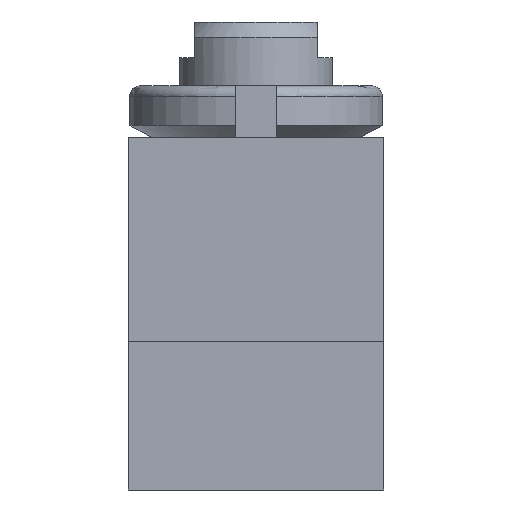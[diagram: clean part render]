
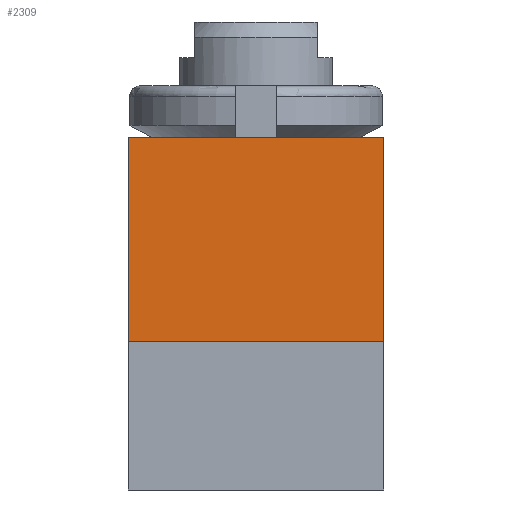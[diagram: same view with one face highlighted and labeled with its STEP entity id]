
A CAD part, left-side view. The second image highlights one B-rep face of the part: STEP entity #2309.
In plain terms, the highlighted planar face has unit normal (-1, 0, 0).
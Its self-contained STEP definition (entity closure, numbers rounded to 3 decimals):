
#263=LINE('',#4122,#389);
#270=LINE('',#4163,#396);
#272=LINE('',#4167,#398);
#273=LINE('',#4169,#399);
#389=VECTOR('',#3222,25.);
#396=VECTOR('',#3271,20.);
#398=VECTOR('',#3275,25.);
#399=VECTOR('',#3278,20.);
#467=PLANE('',#2597);
#701=FACE_OUTER_BOUND('',#935,.T.);
#935=EDGE_LOOP('',(#2113,#2114,#2115,#2116));
#1253=VERTEX_POINT('',#4119);
#1254=VERTEX_POINT('',#4121);
#1267=VERTEX_POINT('',#4161);
#1268=VERTEX_POINT('',#4165);
#1532=EDGE_CURVE('',#1253,#1254,#263,.T.);
#1549=EDGE_CURVE('',#1267,#1253,#270,.T.);
#1551=EDGE_CURVE('',#1267,#1268,#272,.T.);
#1552=EDGE_CURVE('',#1254,#1268,#273,.T.);
#2113=ORIENTED_EDGE('',*,*,#1551,.T.);
#2114=ORIENTED_EDGE('',*,*,#1552,.F.);
#2115=ORIENTED_EDGE('',*,*,#1532,.F.);
#2116=ORIENTED_EDGE('',*,*,#1549,.F.);
#2309=ADVANCED_FACE('',(#701),#467,.T.);
#2597=AXIS2_PLACEMENT_3D('',#4168,#3276,#3277);
#3222=DIRECTION('',(0.,1.,0.));
#3271=DIRECTION('',(0.,0.,-1.));
#3275=DIRECTION('',(0.,1.,0.));
#3276=DIRECTION('center_axis',(-1.,0.,0.));
#3277=DIRECTION('ref_axis',(0.,0.,1.));
#3278=DIRECTION('',(0.,0.,1.));
#4119=CARTESIAN_POINT('',(-12.5,-12.5,0.));
#4121=CARTESIAN_POINT('',(-12.5,12.5,0.));
#4122=CARTESIAN_POINT('',(-12.5,0.,0.));
#4161=CARTESIAN_POINT('',(-12.5,-12.5,20.));
#4163=CARTESIAN_POINT('',(-12.5,-12.5,0.));
#4165=CARTESIAN_POINT('',(-12.5,12.5,20.));
#4167=CARTESIAN_POINT('',(-12.5,0.,20.));
#4168=CARTESIAN_POINT('Origin',(-12.5,0.,0.));
#4169=CARTESIAN_POINT('',(-12.5,12.5,0.));
